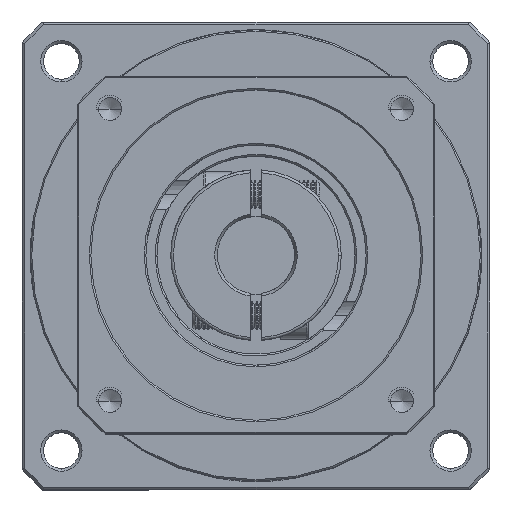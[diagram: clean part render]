
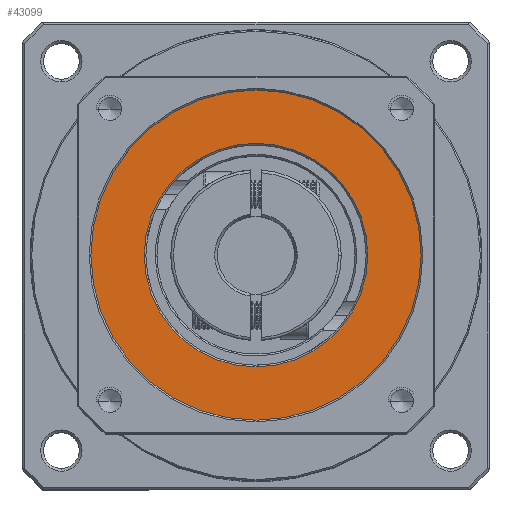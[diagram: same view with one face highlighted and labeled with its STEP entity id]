
A CAD part, top view. The second image highlights one B-rep face of the part: STEP entity #43099.
In plain terms, the highlighted planar face has unit normal (0, 0, 1).
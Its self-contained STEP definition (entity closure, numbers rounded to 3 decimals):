
#666 = ORIENTED_EDGE ( 'NONE', *, *, #32658, .T. ) ;
#859 = DIRECTION ( 'NONE',  ( 0., 0., 1. ) ) ;
#1312 = EDGE_CURVE ( 'NONE', #82799, #103744, #102855, .T. ) ;
#4224 = CARTESIAN_POINT ( 'NONE',  ( -63.221, 21.659, 10.244 ) ) ;
#5084 = CIRCLE ( 'NONE', #42838, 20.3 ) ;
#6171 = DIRECTION ( 'NONE',  ( 0., 0., -1. ) ) ;
#12374 = AXIS2_PLACEMENT_3D ( 'NONE', #4224, #68909, #13558 ) ;
#12877 = DIRECTION ( 'NONE',  ( 0., 0., 1. ) ) ;
#13558 = DIRECTION ( 'NONE',  ( 1., 0., 0. ) ) ;
#15220 = EDGE_LOOP ( 'NONE', ( #24940, #666 ) ) ;
#19615 = CIRCLE ( 'NONE', #109151, 30. ) ;
#20874 = ORIENTED_EDGE ( 'NONE', *, *, #79976, .T. ) ;
#20878 = FACE_BOUND ( 'NONE', #15220, .T. ) ;
#24940 = ORIENTED_EDGE ( 'NONE', *, *, #39483, .T. ) ;
#28409 = DIRECTION ( 'NONE',  ( 0., 0., -1. ) ) ;
#30431 = CARTESIAN_POINT ( 'NONE',  ( -83.521, 21.659, 10.244 ) ) ;
#31154 = CARTESIAN_POINT ( 'NONE',  ( -33.221, 21.659, 10.244 ) ) ;
#32658 = EDGE_CURVE ( 'NONE', #75512, #68348, #54635, .T. ) ;
#39483 = EDGE_CURVE ( 'NONE', #68348, #75512, #5084, .T. ) ;
#42838 = AXIS2_PLACEMENT_3D ( 'NONE', #61556, #6171, #70863 ) ;
#43099 = ADVANCED_FACE ( 'NONE', ( #20878, #67152 ), #86399, .T. ) ;
#47302 = AXIS2_PLACEMENT_3D ( 'NONE', #68232, #12877, #77541 ) ;
#51169 = CARTESIAN_POINT ( 'NONE',  ( -93.221, 21.659, 10.244 ) ) ;
#54635 = CIRCLE ( 'NONE', #78618, 20.3 ) ;
#56201 = CARTESIAN_POINT ( 'NONE',  ( -63.221, 21.659, 10.244 ) ) ;
#61556 = CARTESIAN_POINT ( 'NONE',  ( -63.221, 21.659, 10.244 ) ) ;
#65543 = DIRECTION ( 'NONE',  ( 1., 0., 0. ) ) ;
#67152 = FACE_OUTER_BOUND ( 'NONE', #74825, .T. ) ;
#68232 = CARTESIAN_POINT ( 'NONE',  ( -63.221, 21.659, 10.244 ) ) ;
#68348 = VERTEX_POINT ( 'NONE', #118155 ) ;
#68909 = DIRECTION ( 'NONE',  ( 0., 0., 1. ) ) ;
#70863 = DIRECTION ( 'NONE',  ( 1., 0., 0. ) ) ;
#74825 = EDGE_LOOP ( 'NONE', ( #94839, #20874 ) ) ;
#75512 = VERTEX_POINT ( 'NONE', #30431 ) ;
#77541 = DIRECTION ( 'NONE',  ( 1., 0., 0. ) ) ;
#78618 = AXIS2_PLACEMENT_3D ( 'NONE', #83757, #28409, #93056 ) ;
#79976 = EDGE_CURVE ( 'NONE', #103744, #82799, #19615, .T. ) ;
#82799 = VERTEX_POINT ( 'NONE', #31154 ) ;
#83757 = CARTESIAN_POINT ( 'NONE',  ( -63.221, 21.659, 10.244 ) ) ;
#86399 = PLANE ( 'NONE',  #47302 ) ;
#93056 = DIRECTION ( 'NONE',  ( 1., 0., 0. ) ) ;
#94839 = ORIENTED_EDGE ( 'NONE', *, *, #1312, .T. ) ;
#102855 = CIRCLE ( 'NONE', #12374, 30. ) ;
#103744 = VERTEX_POINT ( 'NONE', #51169 ) ;
#109151 = AXIS2_PLACEMENT_3D ( 'NONE', #56201, #859, #65543 ) ;
#118155 = CARTESIAN_POINT ( 'NONE',  ( -42.921, 21.659, 10.244 ) ) ;
